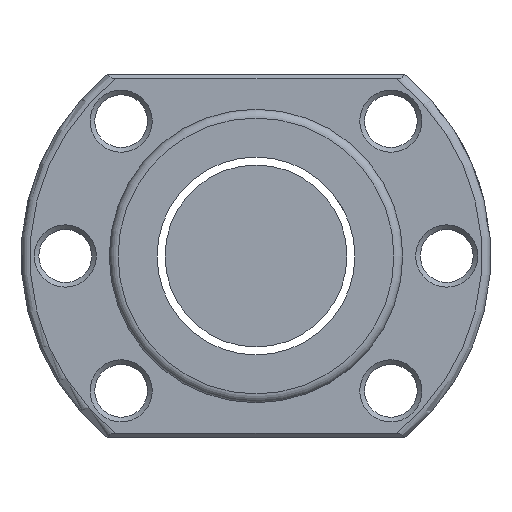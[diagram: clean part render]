
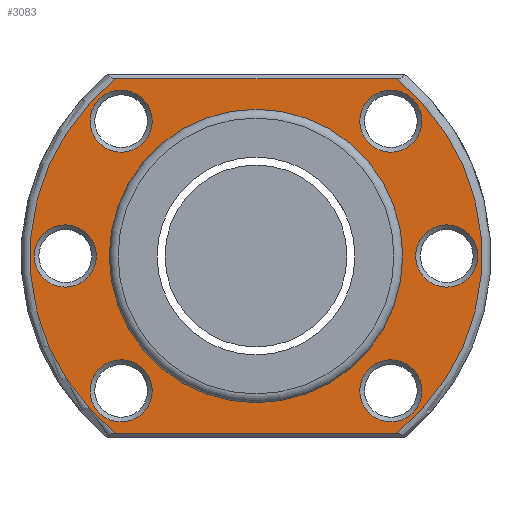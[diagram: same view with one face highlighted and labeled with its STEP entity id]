
A CAD part, left-side view. The second image highlights one B-rep face of the part: STEP entity #3083.
In plain terms, the highlighted planar face has unit normal (-1, 0, 0).
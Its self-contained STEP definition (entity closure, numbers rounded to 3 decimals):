
#10 = FACE_BOUND ( 'NONE', #164, .T. ) ;
#75 = EDGE_CURVE ( 'NONE', #1565, #1565, #1758, .T. ) ;
#107 = LINE ( 'NONE', #1845, #1763 ) ;
#146 = AXIS2_PLACEMENT_3D ( 'NONE', #1114, #160, #1181 ) ;
#154 = CARTESIAN_POINT ( 'NONE',  ( -44., 0., 0. ) ) ;
#160 = DIRECTION ( 'NONE',  ( 1., 0., 0. ) ) ;
#164 = EDGE_LOOP ( 'NONE', ( #1316 ) ) ;
#167 = EDGE_CURVE ( 'NONE', #2558, #2558, #1182, .T. ) ;
#198 = AXIS2_PLACEMENT_3D ( 'NONE', #1483, #2268, #261 ) ;
#261 = DIRECTION ( 'NONE',  ( 0., 0., 1. ) ) ;
#268 = FACE_BOUND ( 'NONE', #1067, .T. ) ;
#295 = DIRECTION ( 'NONE',  ( 0., 0., 1. ) ) ;
#304 = DIRECTION ( 'NONE',  ( 0., 0., 1. ) ) ;
#314 = CARTESIAN_POINT ( 'NONE',  ( -44., 22.981, 28.281 ) ) ;
#316 = EDGE_CURVE ( 'NONE', #2858, #359, #354, .T. ) ;
#344 = CARTESIAN_POINT ( 'NONE',  ( -44., 0., -25. ) ) ;
#354 = CIRCLE ( 'NONE', #198, 38.5 ) ;
#359 = VERTEX_POINT ( 'NONE', #1265 ) ;
#362 = VERTEX_POINT ( 'NONE', #2398 ) ;
#377 = CARTESIAN_POINT ( 'NONE',  ( -44., 32.5, 5.3 ) ) ;
#383 = DIRECTION ( 'NONE',  ( 1., 0., 0. ) ) ;
#421 = CARTESIAN_POINT ( 'NONE',  ( -44., -22.981, 22.981 ) ) ;
#426 = EDGE_CURVE ( 'NONE', #2031, #2031, #2830, .T. ) ;
#622 = EDGE_LOOP ( 'NONE', ( #1750 ) ) ;
#632 = VECTOR ( 'NONE', #2196, 1000. ) ;
#647 = CARTESIAN_POINT ( 'NONE',  ( -44., 22.981, 22.981 ) ) ;
#789 = AXIS2_PLACEMENT_3D ( 'NONE', #1326, #2304, #304 ) ;
#827 = CARTESIAN_POINT ( 'NONE',  ( -44., 22.981, -17.681 ) ) ;
#912 = EDGE_LOOP ( 'NONE', ( #2297 ) ) ;
#913 = ORIENTED_EDGE ( 'NONE', *, *, #316, .T. ) ;
#915 = CARTESIAN_POINT ( 'NONE',  ( -44., 23.879, -30.2 ) ) ;
#946 = AXIS2_PLACEMENT_3D ( 'NONE', #1241, #3164, #2003 ) ;
#996 = CARTESIAN_POINT ( 'NONE',  ( -44., 40., -30.2 ) ) ;
#1054 = DIRECTION ( 'NONE',  ( 1., 0., 0. ) ) ;
#1067 = EDGE_LOOP ( 'NONE', ( #1555 ) ) ;
#1114 = CARTESIAN_POINT ( 'NONE',  ( -44., 22.981, -22.981 ) ) ;
#1141 = CARTESIAN_POINT ( 'NONE',  ( -44., -23.879, -30.2 ) ) ;
#1150 = VERTEX_POINT ( 'NONE', #377 ) ;
#1181 = DIRECTION ( 'NONE',  ( 0., 0., 1. ) ) ;
#1182 = CIRCLE ( 'NONE', #2267, 5.3 ) ;
#1194 = LINE ( 'NONE', #996, #632 ) ;
#1207 = VERTEX_POINT ( 'NONE', #915 ) ;
#1241 = CARTESIAN_POINT ( 'NONE',  ( -44., 40., 0. ) ) ;
#1256 = FACE_OUTER_BOUND ( 'NONE', #1428, .T. ) ;
#1265 = CARTESIAN_POINT ( 'NONE',  ( -44., -23.879, 30.2 ) ) ;
#1316 = ORIENTED_EDGE ( 'NONE', *, *, #75, .T. ) ;
#1326 = CARTESIAN_POINT ( 'NONE',  ( -44., 32.5, 0. ) ) ;
#1358 = DIRECTION ( 'NONE',  ( 0., 1., 0. ) ) ;
#1376 = DIRECTION ( 'NONE',  ( 0., 0., -1. ) ) ;
#1428 = EDGE_LOOP ( 'NONE', ( #2902, #2149, #913, #2110 ) ) ;
#1445 = EDGE_LOOP ( 'NONE', ( #1489 ) ) ;
#1483 = CARTESIAN_POINT ( 'NONE',  ( -44., 0., 0. ) ) ;
#1488 = FACE_BOUND ( 'NONE', #622, .T. ) ;
#1489 = ORIENTED_EDGE ( 'NONE', *, *, #2601, .T. ) ;
#1555 = ORIENTED_EDGE ( 'NONE', *, *, #426, .T. ) ;
#1565 = VERTEX_POINT ( 'NONE', #827 ) ;
#1571 = AXIS2_PLACEMENT_3D ( 'NONE', #2046, #2497, #1762 ) ;
#1581 = VERTEX_POINT ( 'NONE', #1795 ) ;
#1638 = ORIENTED_EDGE ( 'NONE', *, *, #1799, .T. ) ;
#1653 = AXIS2_PLACEMENT_3D ( 'NONE', #1777, #1054, #295 ) ;
#1750 = ORIENTED_EDGE ( 'NONE', *, *, #2661, .T. ) ;
#1758 = CIRCLE ( 'NONE', #146, 5.3 ) ;
#1762 = DIRECTION ( 'NONE',  ( 0., 0., 1. ) ) ;
#1763 = VECTOR ( 'NONE', #1358, 1000. ) ;
#1767 = FACE_BOUND ( 'NONE', #1445, .T. ) ;
#1777 = CARTESIAN_POINT ( 'NONE',  ( -44., -32.5, 0. ) ) ;
#1795 = CARTESIAN_POINT ( 'NONE',  ( -44., -22.981, 28.281 ) ) ;
#1799 = EDGE_CURVE ( 'NONE', #1581, #1581, #3042, .T. ) ;
#1800 = VERTEX_POINT ( 'NONE', #2823 ) ;
#1814 = EDGE_CURVE ( 'NONE', #2788, #2788, #2167, .T. ) ;
#1845 = CARTESIAN_POINT ( 'NONE',  ( -44., 40., 30.2 ) ) ;
#1878 = AXIS2_PLACEMENT_3D ( 'NONE', #2551, #2022, #2794 ) ;
#1957 = PLANE ( 'NONE',  #946 ) ;
#1981 = CIRCLE ( 'NONE', #1878, 5.3 ) ;
#2003 = DIRECTION ( 'NONE',  ( 0., 0., 1. ) ) ;
#2022 = DIRECTION ( 'NONE',  ( 1., 0., 0. ) ) ;
#2031 = VERTEX_POINT ( 'NONE', #2545 ) ;
#2046 = CARTESIAN_POINT ( 'NONE',  ( -44., 0., 0. ) ) ;
#2074 = ORIENTED_EDGE ( 'NONE', *, *, #1814, .T. ) ;
#2110 = ORIENTED_EDGE ( 'NONE', *, *, #2596, .T. ) ;
#2149 = ORIENTED_EDGE ( 'NONE', *, *, #3031, .T. ) ;
#2167 = CIRCLE ( 'NONE', #2634, 25. ) ;
#2196 = DIRECTION ( 'NONE',  ( 0., -1., 0. ) ) ;
#2224 = EDGE_LOOP ( 'NONE', ( #2074 ) ) ;
#2267 = AXIS2_PLACEMENT_3D ( 'NONE', #647, #2396, #2625 ) ;
#2268 = DIRECTION ( 'NONE',  ( -1., 0., 0. ) ) ;
#2297 = ORIENTED_EDGE ( 'NONE', *, *, #167, .T. ) ;
#2302 = EDGE_LOOP ( 'NONE', ( #1638 ) ) ;
#2304 = DIRECTION ( 'NONE',  ( 1., 0., 0. ) ) ;
#2337 = DIRECTION ( 'NONE',  ( 0., 0., 1. ) ) ;
#2396 = DIRECTION ( 'NONE',  ( 1., 0., 0. ) ) ;
#2398 = CARTESIAN_POINT ( 'NONE',  ( -44., -22.981, -17.681 ) ) ;
#2454 = FACE_BOUND ( 'NONE', #2302, .T. ) ;
#2497 = DIRECTION ( 'NONE',  ( -1., 0., 0. ) ) ;
#2544 = CIRCLE ( 'NONE', #789, 5.3 ) ;
#2545 = CARTESIAN_POINT ( 'NONE',  ( -44., -32.5, 5.3 ) ) ;
#2551 = CARTESIAN_POINT ( 'NONE',  ( -44., -22.981, -22.981 ) ) ;
#2558 = VERTEX_POINT ( 'NONE', #314 ) ;
#2596 = EDGE_CURVE ( 'NONE', #359, #1800, #107, .T. ) ;
#2599 = DIRECTION ( 'NONE',  ( 1., 0., 0. ) ) ;
#2601 = EDGE_CURVE ( 'NONE', #362, #362, #1981, .T. ) ;
#2625 = DIRECTION ( 'NONE',  ( 0., 0., 1. ) ) ;
#2634 = AXIS2_PLACEMENT_3D ( 'NONE', #154, #383, #1376 ) ;
#2661 = EDGE_CURVE ( 'NONE', #1150, #1150, #2544, .T. ) ;
#2727 = FACE_BOUND ( 'NONE', #912, .T. ) ;
#2745 = FACE_BOUND ( 'NONE', #2224, .T. ) ;
#2788 = VERTEX_POINT ( 'NONE', #344 ) ;
#2794 = DIRECTION ( 'NONE',  ( 0., 0., 1. ) ) ;
#2801 = CIRCLE ( 'NONE', #1571, 38.5 ) ;
#2823 = CARTESIAN_POINT ( 'NONE',  ( -44., 23.879, 30.2 ) ) ;
#2830 = CIRCLE ( 'NONE', #1653, 5.3 ) ;
#2858 = VERTEX_POINT ( 'NONE', #1141 ) ;
#2902 = ORIENTED_EDGE ( 'NONE', *, *, #3189, .T. ) ;
#3031 = EDGE_CURVE ( 'NONE', #1207, #2858, #1194, .T. ) ;
#3042 = CIRCLE ( 'NONE', #3143, 5.3 ) ;
#3083 = ADVANCED_FACE ( 'NONE', ( #1767, #268, #2454, #2727, #1488, #10, #2745, #1256 ), #1957, .T. ) ;
#3143 = AXIS2_PLACEMENT_3D ( 'NONE', #421, #2599, #2337 ) ;
#3164 = DIRECTION ( 'NONE',  ( -1., 0., 0. ) ) ;
#3189 = EDGE_CURVE ( 'NONE', #1800, #1207, #2801, .T. ) ;
